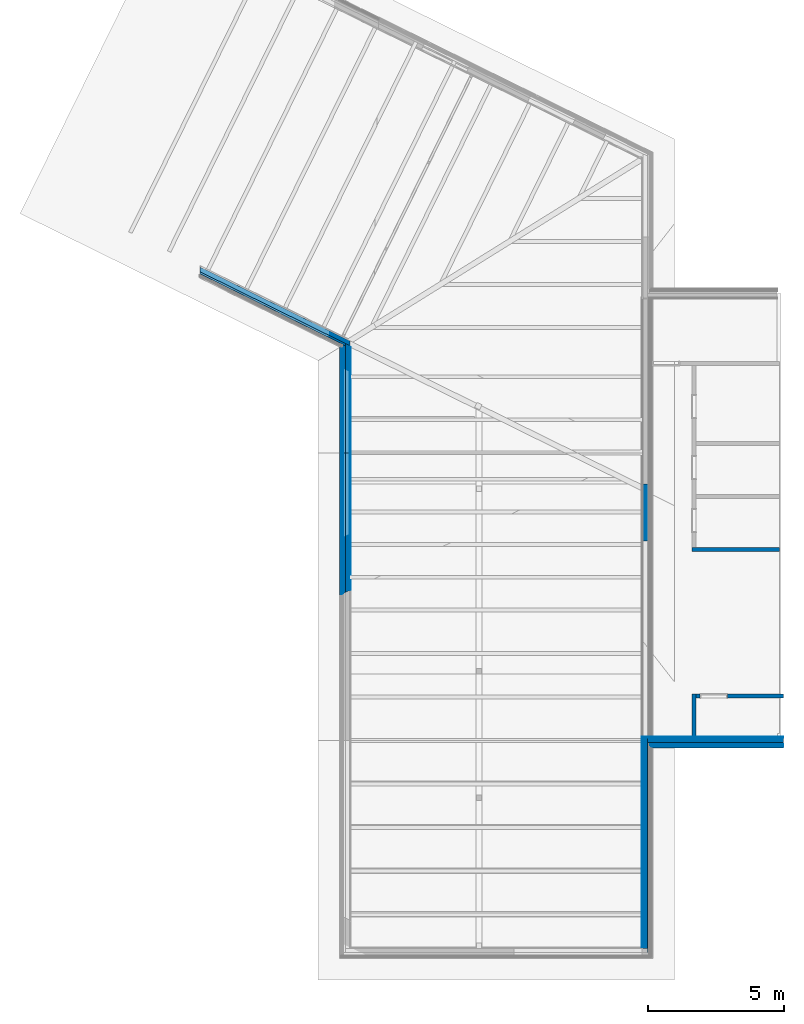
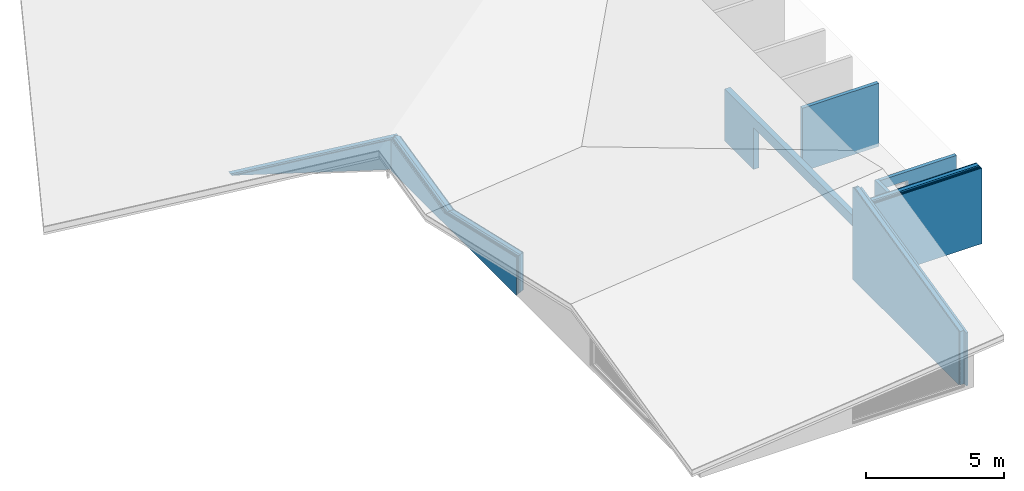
# One storey, part 4 of 14: 24 walls, 2 openings.
"""IFC4 building model written with IfcOpenShell, lengths in metres."""

from ifc_helpers import new_model, entity, si_unit, converted_unit, derived_unit, frame, frame_2d, origin, origin_with_axes, place, context, subcontext, project, spatial, polyline, rectangle, outline, extrude, clip, halfspace, bounded_halfspace, material, element, save


model = new_model("IFC4")

# Units and contexts
model_context = context("Model", 3, precision=1e-05, world=origin())
body_context = subcontext(model_context, "Body", "Model", "MODEL_VIEW")
ifc_project = project(units=[si_unit("LENGTHUNIT", "METRE"), si_unit("AREAUNIT", "SQUARE_METRE"), si_unit("VOLUMEUNIT", "CUBIC_METRE"), si_unit("MASSUNIT", "GRAM", prefix="KILO"), converted_unit("PLANEANGLEUNIT", "DEGREE", entity("IfcPlaneAngleMeasure", 0.0174532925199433), si_unit("PLANEANGLEUNIT", "RADIAN"), dimensions=[0, 0, 0, 0, 0, 0, 0]), derived_unit("THERMALTRANSMITTANCEUNIT", [(si_unit("POWERUNIT", "WATT"), 1), (si_unit("THERMODYNAMICTEMPERATUREUNIT", "KELVIN"), -1), (si_unit("LENGTHUNIT", "METRE"), -2)]), derived_unit("VOLUMETRICFLOWRATEUNIT", [(si_unit("LENGTHUNIT", "METRE"), 3), (converted_unit("TIMEUNIT", "hour", entity("IfcTimeMeasure", 3600.0), si_unit("TIMEUNIT", "SECOND"), dimensions=[0, 0, 1, 0, 0, 0, 0]), -1), (si_unit("LENGTHUNIT", "METRE"), -1)])], contexts=[model_context])

# Site, building, storey
site_placement = place(None, origin())
site = spatial("IfcSite", under=ifc_project, at=site_placement, Name="Psychiatrie Neubau Wunstorf", CompositionType="ELEMENT")
building_placement = place(site_placement, origin())
building = spatial("IfcBuilding", under=site, at=building_placement, Name="Neubau H1 Sozialzentrum", CompositionType="ELEMENT")
storey_placement = place(building_placement, frame((0.0, 0.0, 4.45)))
storey = spatial("IfcBuildingStorey", under=building, at=storey_placement, Name="H1 Ebene +1", CompositionType="ELEMENT", Elevation=4.45)

# Walls
ifc_material_1 = material(Name="WA-LB")
wall_1_placement = place(storey_placement, frame((0.0299999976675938, 11.9922461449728, -0.15), z_axis=(0.0, 0.0, 1.0), x_axis=(-0.999999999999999, 3.43512303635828e-08, 0.0)))
element("IfcWall", 1, at=wall_1_placement, inside=storey, material=ifc_material_1, context=body_context, shape_type="SweptSolid", body=[
    extrude(rectangle(XDim=5.16052861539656, YDim=0.0359999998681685, at=frame_2d((2.58026430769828, 0.0179999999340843), x_axis=(1.0, 0.0))), origin_with_axes(), (0.0, 0.0, 1.0), 3.36),
])
ifc_material_2 = material(Name="WA-HD")
wall_2_placement = place(storey_placement, frame((0.0299999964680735, 11.9562461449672, -0.15), z_axis=(0.0, 0.0, 1.0), x_axis=(-0.999999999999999, 3.43778605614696e-08, 0.0)))
element("IfcWall", 2, at=wall_2_placement, inside=storey, material=ifc_material_2, context=body_context, shape_type="SweptSolid", body=[
    extrude(rectangle(XDim=5.00052855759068, YDim=0.159999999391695, at=frame_2d((2.50026427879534, 0.0799999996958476), x_axis=(1.0, 0.0))), origin_with_axes(), (0.0, 0.0, 1.0), 3.36),
])
ifc_material_3 = material(Name="WA-DL")
wall_3_placement = place(storey_placement, frame((0.029999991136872, 11.7962461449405, -0.15), z_axis=(0.0, 0.0, 1.0), x_axis=(-0.999999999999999, 3.45048465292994e-08, 0.0)))
element("IfcWall", 3, at=wall_3_placement, inside=storey, material=ifc_material_3, context=body_context, shape_type="SweptSolid", body=[
    extrude(rectangle(XDim=4.9205284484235, YDim=0.0799999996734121, at=frame_2d((2.46026422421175, 0.0399999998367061), x_axis=(1.0, 0.0))), origin_with_axes(), (0.0, 0.0, 1.0), 3.36),
])
ifc_material_4 = material(Name="WA-LB")
wall_4_placement = place(storey_placement, frame((0.0299999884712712, 11.716246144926, -0.15), z_axis=(0.0, 0.0, 1.0), x_axis=(-0.999999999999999, 3.45741810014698e-08, 0.0)))
element("IfcWall", 4, at=wall_4_placement, inside=storey, material=ifc_material_4, context=body_context, shape_type="SweptSolid", body=[
    extrude(rectangle(XDim=4.88452839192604, YDim=0.0359999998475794, at=frame_2d((2.44226419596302, 0.0179999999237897), x_axis=(1.0, 0.0))), origin_with_axes(), (0.0, 0.0, 1.0), 3.36),
])
ifc_material_5 = material(Name="WA-KL")
wall_5_placement = place(storey_placement, frame((0.0299999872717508, 11.6802461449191, -0.15), z_axis=(0.0, 0.0, 1.0), x_axis=(-0.999999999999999, 3.4606787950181e-08, 0.0)))
element("IfcWall", 5, at=wall_5_placement, inside=storey, material=ifc_material_5, context=body_context, shape_type="SweptSolid", body=[
    extrude(rectangle(XDim=4.86052836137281, YDim=0.0239999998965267, at=frame_2d((2.4302641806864, 0.0119999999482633), x_axis=(1.0, 0.0))), origin_with_axes(), (0.0, 0.0, 1.0), 3.36),
])
ifc_material_6 = material(Name="WA-TL")
wall_6_placement = place(storey_placement, frame((0.0299999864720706, 11.6562461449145, -0.15), z_axis=(0.0, 0.0, 1.0), x_axis=(-0.999999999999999, 3.46290385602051e-08, 0.0)))
element("IfcWall", 6, at=wall_6_placement, inside=storey, material=ifc_material_6, context=body_context, shape_type="SweptSolid", body=[
    extrude(rectangle(XDim=4.8365283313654, YDim=0.023999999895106, at=frame_2d((2.4182641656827, 0.011999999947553), x_axis=(1.0, 0.0))), origin_with_axes(), (0.0, 0.0, 1.0), 3.36),
])
ifc_material_7 = material(Name="WA-HS")
wall_7_placement = place(storey_placement, frame((0.0299999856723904, 11.6322461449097, -0.15), z_axis=(0.0, 0.0, 1.0), x_axis=(-0.999999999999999, 3.46517127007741e-08, 0.0)))
element("IfcWall", 7, at=wall_7_placement, inside=storey, material=ifc_material_7, context=body_context, shape_type="SweptSolid", body=[
    extrude(rectangle(XDim=4.7945283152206, YDim=0.0420000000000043, at=frame_2d((2.3972641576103, 0.0210000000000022), x_axis=(1.0, 0.0))), origin_with_axes(), (0.0, 0.0, 1.0), 3.36),
])
ifc_material_8 = material(Name="WA-LB")
wall_8_placement = place(storey_placement, frame((-15.8625266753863, 17.3981280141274, -0.15), z_axis=(0.0, 0.0, 1.0), x_axis=(0.0, 1.0, 0.0)))
element("IfcWall", 8, at=wall_8_placement, inside=storey, material=ifc_material_8, context=body_context, shape_type="Clipping", body=[
    clip(clip(extrude(outline(polyline([(0.0170132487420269, -0.036000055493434), (8.9270877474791, -0.036000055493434), (8.94483771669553, 0.0), (0.0, 0.0), (0.0170132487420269, -0.036000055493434)])), frame((-0.0170132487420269, 0.036000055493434, 0.0), z_axis=(0.0, 0.0, 1.0), x_axis=(1.0, 0.0, 0.0)), (0.0, 0.0, 1.0), 1.68012656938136), bounded_halfspace(frame((6.97779700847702, 0.018000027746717, 0.966206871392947), z_axis=(0.222900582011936, -0.10534052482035, -0.969132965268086), x_axis=(-0.974555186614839, 0.0, -0.22414769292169)), True, origin_with_axes(), polyline([(8.92782446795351, 0.036000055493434), (5.03664453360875, 0.036000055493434), (5.03664453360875, 0.0), (8.91007449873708, 0.0), (8.92782446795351, 0.036000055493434)]))), bounded_halfspace(frame((2.51406895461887, 0.0180000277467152, 1.09993418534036), z_axis=(-0.222900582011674, -0.105340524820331, -0.969132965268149), x_axis=(0.9745551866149, 0.0, -0.224147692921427)), True, origin_with_axes(), polyline([(0.0, 0.0), (5.03664453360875, 0.0), (5.03664453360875, 0.036000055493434), (-0.0170132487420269, 0.036000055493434), (0.0, 0.0)]))),
])
ifc_material_9 = material(Name="WA-HD")
wall_9_placement = place(storey_placement, frame((-15.8985267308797, 17.3811147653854, -0.15), z_axis=(0.0, 0.0, 1.0), x_axis=(0.0, 1.0, 0.0)))
element("IfcWall", 9, at=wall_9_placement, inside=storey, material=ifc_material_9, context=body_context, shape_type="Clipping", body=[
    clip(clip(clip(extrude(outline(polyline([(0.0756143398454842, -0.160000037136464), (9.06505022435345, -0.160000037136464), (9.14393887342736, 0.0), (0.0, 0.0), (0.0756143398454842, -0.160000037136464)])), frame((-0.0756143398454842, 0.160000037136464, 0.0), z_axis=(0.0, 0.0, 1.0), x_axis=(1.0, 0.0, 0.0)), (0.0, 0.0, 1.0), 1.68012656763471), bounded_halfspace(frame((9.06519046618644, 0.15805119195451, 1.42274896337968), z_axis=(-0.00424748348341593, -0.246631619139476, -0.969099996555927), x_axis=(-0.999990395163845, 0.0, 0.0043828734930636)), True, origin_with_axes(), polyline([(9.06832453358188, 0.160000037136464), (9.0618049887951, 0.160000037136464), (9.06544187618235, 0.154153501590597), (9.06832453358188, 0.160000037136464)]))), bounded_halfspace(frame((7.4447996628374, 0.0948307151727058, 1.05744022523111), z_axis=(0.222900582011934, -0.105340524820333, -0.969132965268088), x_axis=(-0.974555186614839, 0.0, -0.224147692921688)), True, origin_with_axes(), polyline([(9.0618049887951, 0.160000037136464), (5.05365778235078, 0.160000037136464), (5.05365778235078, 0.0), (8.98943588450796, 0.0), (9.06544187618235, 0.154153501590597), (9.0618049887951, 0.160000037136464)]))), bounded_halfspace(frame((2.50792530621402, 0.0800000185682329, 1.09460809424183), z_axis=(-0.222900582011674, -0.105340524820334, -0.969132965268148), x_axis=(0.9745551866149, 0.0, -0.224147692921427)), True, origin_with_axes(), polyline([(0.0, 0.0), (5.05365778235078, 0.0), (5.05365778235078, 0.160000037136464), (-0.0756143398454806, 0.160000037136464), (0.0, 0.0)]))),
])
ifc_material_10 = material(Name="WA-DL")
wall_10_placement = place(storey_placement, frame((-16.0585267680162, 17.3055004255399, -0.15), z_axis=(0.0, 0.0, 1.0), x_axis=(0.0, 1.0, 0.0)))
element("IfcWall", 10, at=wall_10_placement, inside=storey, material=ifc_material_10, context=body_context, shape_type="Clipping", body=[
    clip(clip(clip(extrude(outline(polyline([(0.0378071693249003, -0.0800000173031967), (9.09255042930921, -0.0800000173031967), (9.13199475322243, 0.0), (0.0, 0.0), (0.0378071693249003, -0.0800000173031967)])), frame((-0.0378071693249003, 0.0800000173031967, 0.0), z_axis=(0.0, 0.0, 1.0), x_axis=(1.0, 0.0, 0.0)), (0.0, 0.0, 1.0), 1.68012655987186), bounded_halfspace(frame((9.09104707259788, 0.0780471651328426, 1.40260842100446), z_axis=(-0.0042470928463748, -0.246631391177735, -0.969100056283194), x_axis=(-0.999990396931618, -2.78430428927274e-13, 0.00438247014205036)), True, origin_with_axes(), polyline([(9.09418758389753, 0.0800000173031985), (9.08765463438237, 0.0800000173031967), (9.09129899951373, 0.0741414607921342), (9.09418758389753, 0.0800000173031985)]))), bounded_halfspace(frame((7.49844822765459, 0.0468282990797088, 1.04021444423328), z_axis=(0.222900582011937, -0.10534052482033, -0.969132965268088), x_axis=(-0.974555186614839, 0.0, -0.224147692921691)), True, origin_with_axes(), polyline([(9.08765463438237, 0.0800000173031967), (5.12927212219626, 0.0800000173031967), (5.12927212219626, 0.0), (9.05474325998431, 0.0), (9.09129899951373, 0.0741414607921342), (9.08765463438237, 0.0800000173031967)]))), bounded_halfspace(frame((2.5551842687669, 0.0400000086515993, 1.08808635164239), z_axis=(-0.222900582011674, -0.105340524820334, -0.969132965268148), x_axis=(0.9745551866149, 0.0, -0.224147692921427)), True, origin_with_axes(), polyline([(0.0, 0.0), (5.12927212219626, 0.0), (5.12927212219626, 0.0800000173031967), (-0.0378071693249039, 0.0800000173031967), (0.0, 0.0)]))),
])
ifc_material_11 = material(Name="WA-LB")
wall_11_placement = place(storey_placement, frame((-16.1385267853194, 17.267693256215, -0.15), z_axis=(0.0, 0.0, 1.0), x_axis=(0.0, 1.0, 0.0)))
element("IfcWall", 11, at=wall_11_placement, inside=storey, material=ifc_material_11, context=body_context, shape_type="Clipping", body=[
    clip(clip(clip(extrude(outline(polyline([(0.017013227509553, -0.0360000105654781), (9.10886995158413, -0.0360000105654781), (9.1266198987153, 0.0), (0.0, 0.0), (0.017013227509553, -0.0360000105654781)])), frame((-0.017013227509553, 0.0360000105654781, 0.0), z_axis=(0.0, 0.0, 1.0), x_axis=(1.0, 0.0, 0.0)), (0.0, 0.0, 1.0), 1.68012655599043), bounded_halfspace(frame((9.10646326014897, 0.034045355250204, 1.39354517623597), z_axis=(-0.00424691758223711, -0.246631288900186, -0.969100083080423), x_axis=(-0.999990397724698, 2.78173580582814e-13, 0.00438228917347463)), True, origin_with_axes(), polyline([(9.10960667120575, 0.0360000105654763), (9.10306768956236, 0.0360000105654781), (9.10671541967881, 0.0301360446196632), (9.10960667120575, 0.0360000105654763)]))), bounded_halfspace(frame((7.52715968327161, 0.0204272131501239, 1.03229646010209), z_axis=(0.222900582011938, -0.105340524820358, -0.969132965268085), x_axis=(-0.974555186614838, 0.0, -0.224147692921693)), True, origin_with_axes(), polyline([(9.10306768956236, 0.0360000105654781), (5.16707929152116, 0.0360000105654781), (5.16707929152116, 0.0), (9.09185672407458, 0.0), (9.10671541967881, 0.0301360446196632), (9.10306768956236, 0.0360000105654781)]))), bounded_halfspace(frame((2.57928633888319, 0.0180000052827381, 1.08493417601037), z_axis=(-0.222900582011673, -0.105340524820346, -0.969132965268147), x_axis=(0.9745551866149, 0.0, -0.224147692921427)), True, origin_with_axes(), polyline([(0.0, 0.0), (5.16707929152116, 0.0), (5.16707929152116, 0.0360000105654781), (-0.0170132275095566, 0.0360000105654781), (0.0, 0.0)]))),
])
ifc_material_12 = material(Name="WA-KL")
wall_12_placement = place(storey_placement, frame((-16.1745267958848, 17.2506800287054, -0.15), z_axis=(0.0, 0.0, 1.0), x_axis=(0.0, 1.0, 0.0)))
element("IfcWall", 12, at=wall_12_placement, inside=storey, material=ifc_material_12, context=body_context, shape_type="Clipping", body=[
    clip(clip(clip(extrude(outline(polyline([(0.0113421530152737, -0.0240000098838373), (9.11120336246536, -0.0240000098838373), (9.12303666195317, 0.0), (0.0, 0.0), (0.0113421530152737, -0.0240000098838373)])), frame((-0.0113421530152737, 0.0240000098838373, 0.0), z_axis=(0.0, 0.0, 1.0), x_axis=(1.0, 0.0, 0.0)), (0.0, 0.0, 1.0), 1.68012655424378), bounded_halfspace(frame((9.10854916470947, 0.0220441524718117, 1.38750301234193), z_axis=(-0.0042468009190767, -0.246631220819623, -0.969100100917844), x_axis=(-0.999990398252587, 0.0, 0.00438216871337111)), True, origin_with_axes(), polyline([(9.1116945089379, 0.0240000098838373), (9.1051515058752, 0.0240000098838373), (9.10880147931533, 0.0181324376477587), (9.1116945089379, 0.0240000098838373)]))), bounded_halfspace(frame((7.53639984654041, 0.0132264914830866, 1.02737829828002), z_axis=(0.22290058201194, -0.105340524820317, -0.969132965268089), x_axis=(-0.974555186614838, 0.0, -0.224147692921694)), True, origin_with_axes(), polyline([(9.1051515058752, 0.0240000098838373), (5.18409251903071, 0.0240000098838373), (5.18409251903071, 0.0), (9.09986120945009, 0.0), (9.10880147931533, 0.0181324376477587), (9.1051515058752, 0.0240000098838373)]))), bounded_halfspace(frame((2.58921072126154, 0.0120000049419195, 1.08330374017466), z_axis=(-0.222900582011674, -0.10534052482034, -0.969132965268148), x_axis=(0.9745551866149, 0.0, -0.224147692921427)), True, origin_with_axes(), polyline([(0.0, 0.0), (5.18409251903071, 0.0), (5.18409251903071, 0.0240000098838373), (-0.0113421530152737, 0.0240000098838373), (0.0, 0.0)]))),
])
ifc_material_13 = material(Name="WA-TL")
wall_13_placement = place(storey_placement, frame((-16.1985268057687, 17.2393378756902, -0.15), z_axis=(0.0, 0.0, 1.0), x_axis=(0.0, 1.0, 0.0)))
element("IfcWall", 13, at=wall_13_placement, inside=storey, material=ifc_material_13, context=body_context, shape_type="Clipping", body=[
    clip(clip(clip(extrude(outline(polyline([(0.0113421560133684, -0.0240000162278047), (9.10762012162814, -0.0240000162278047), (9.11945342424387, 0.0), (0.0, 0.0), (0.0113421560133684, -0.0240000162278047)])), frame((-0.0113421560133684, 0.0240000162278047, 0.0), z_axis=(0.0, 0.0, 1.0), x_axis=(1.0, 0.0, 0.0)), (0.0, 0.0, 1.0), 1.68012655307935), bounded_halfspace(frame((9.10496399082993, 0.0220429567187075, 1.38146084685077), z_axis=(-0.00424668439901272, -0.246631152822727, -0.969100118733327), x_axis=(-0.999990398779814, 0.0, 0.00438204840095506)), True, origin_with_axes(), polyline([(9.1081112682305, 0.0240000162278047), (9.10156424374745, 0.0240000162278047), (9.10521646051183, 0.018128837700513), (9.1081112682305, 0.0240000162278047)]))), bounded_halfspace(frame((7.53878560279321, 0.0132257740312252, 1.0227097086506), z_axis=(0.222900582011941, -0.105340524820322, -0.969132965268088), x_axis=(-0.974555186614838, 0.0, -0.224147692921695)), True, origin_with_axes(), polyline([(9.10156424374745, 0.0240000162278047), (5.19543467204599, 0.0240000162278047), (5.19543467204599, 0.0), (9.09627796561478, 0.0), (9.10521646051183, 0.018128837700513), (9.10156424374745, 0.0240000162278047)]))), bounded_halfspace(frame((2.59488179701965, 0.0120000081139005, 1.08199939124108), z_axis=(-0.222900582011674, -0.105340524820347, -0.969132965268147), x_axis=(0.9745551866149, 0.0, -0.224147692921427)), True, origin_with_axes(), polyline([(0.0, 0.0), (5.19543467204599, 0.0), (5.19543467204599, 0.0240000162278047), (-0.0113421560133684, 0.0240000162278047), (0.0, 0.0)]))),
])
ifc_material_14 = material(Name="WA-HS")
wall_14_placement = place(storey_placement, frame((-16.2225268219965, 17.2279957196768, -0.15), z_axis=(0.0, 0.0, 1.0), x_axis=(0.0, 1.0, 0.0)))
element("IfcWall", 14, at=wall_14_placement, inside=storey, material=ifc_material_14, context=body_context, shape_type="Clipping", body=[
    clip(clip(clip(extrude(outline(polyline([(0.0189035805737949, -0.04), (9.09152931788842, -0.04), (9.11125147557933, 0.0), (0.0, 0.0), (0.0189035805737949, -0.04)])), frame((-0.0189035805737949, 0.04, 0.0), z_axis=(0.0, 0.0, 1.0), x_axis=(1.0, 0.0, 0.0)), (0.0, 0.0, 1.0), 1.68012655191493), bounded_halfspace(frame((9.09026934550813, 0.0387075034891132, 1.37122586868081), z_axis=(-0.00434416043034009, -0.246688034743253, -0.969085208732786), x_axis=(-0.999989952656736, 0.0, 0.00448269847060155)), True, origin_with_axes(), polyline([(9.09234789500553, 0.04), (9.08802405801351, 0.04), (9.09043608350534, 0.0361225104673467), (9.09234789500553, 0.04)]))), bounded_halfspace(frame((7.53292790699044, 0.0232245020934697, 1.01505822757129), z_axis=(0.222900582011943, -0.105340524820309, -0.969132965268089), x_axis=(-0.974555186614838, 0.0, -0.224147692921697)), True, origin_with_axes(), polyline([(9.08802405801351, 0.04), (5.20677682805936, 0.04), (5.20677682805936, 0.0), (9.07262573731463, 0.0), (9.09043608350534, 0.0361225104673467), (9.08802405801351, 0.04)]))), bounded_halfspace(frame((2.59866251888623, 0.02, 1.08026025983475), z_axis=(-0.222900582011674, -0.105340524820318, -0.96913296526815), x_axis=(0.9745551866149, 0.0, -0.224147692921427)), True, origin_with_axes(), polyline([(0.0, 0.0), (5.20677682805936, 0.0), (5.20677682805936, 0.04), (-0.0189035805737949, 0.04), (0.0, 0.0)]))),
])
ifc_material_15 = material(Name="WA-HD")
wall_15_placement = place(storey_placement, frame((-15.8985267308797, 26.5489418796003, -0.161786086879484), z_axis=(0.0, 0.0, 1.0), x_axis=(-0.896905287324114, 0.442222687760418, 0.0)))
element("IfcWall", 15, at=wall_15_placement, inside=storey, material=ifc_material_15, context=body_context, shape_type="Clipping", body=[
    clip(clip(clip(clip(clip(extrude(outline(polyline([(-4.86366932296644, -2.59694773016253), (1.27718833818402, -2.59694773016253), (1.20154666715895, -2.43694769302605), (-4.94255797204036, -2.43694769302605), (-4.86366932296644, -2.59694773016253)])), frame((4.86366932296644, 2.59694773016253, 0.0), z_axis=(0.0, 0.0, 1.0), x_axis=(1.0, 0.0, 0.0)), (0.0, 0.0, 1.0), 1.41242597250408), bounded_halfspace(frame((6.07741489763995, 0.0800000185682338, 0.00589304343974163), z_axis=(0.222899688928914, 0.105378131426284, 0.96912908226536), x_axis=(-0.427404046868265, 0.904060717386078, 0.0)), True, origin_with_axes(), polyline([(6.14085766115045, 0.0), (6.06521599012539, 0.160000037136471), (6.01397213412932, 0.160000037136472), (6.08961380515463, 0.0), (6.14085766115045, 0.0)]))), bounded_halfspace(frame((3.00617432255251, 0.0800000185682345, 0.0117860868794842), z_axis=(0.0, 0.0, 1.0), x_axis=(1.0, 1.11022302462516e-16, 0.0)), True, origin_with_axes(), polyline([(0.0, 0.0), (6.08961380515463, 0.0), (6.01397213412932, 0.160000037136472), (-0.0788886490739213, 0.160000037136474), (0.0, 0.0)]))), bounded_halfspace(frame((6.07741489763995, 0.0800000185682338, 0.0117860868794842), z_axis=(0.0, 0.0, -1.0), x_axis=(-1.0, 1.01585406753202e-14, 0.0)), True, origin_with_axes(), polyline([(6.06521599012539, 0.160000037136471), (6.01397213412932, 0.160000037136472), (6.08961380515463, 0.0), (6.14085766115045, 0.0), (6.06521599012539, 0.160000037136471)]))), bounded_halfspace(frame((2.43873974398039, 0.0651646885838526, 0.84440205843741), z_axis=(-0.222900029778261, -0.105373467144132, -0.969129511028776), x_axis=(0.974555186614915, 1.11022302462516e-16, -0.224147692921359)), True, origin_with_axes(), polyline([(0.0, 0.0), (6.08961380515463, 0.0), (6.01397213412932, 0.160000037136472), (0.0929840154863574, 0.160000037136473), (-0.00287123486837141, 0.00582336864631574), (0.0, 0.0)]))), bounded_halfspace(frame((0.00374137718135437, 0.108607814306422, 1.38631005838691), z_axis=(0.00409122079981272, -0.246504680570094, -0.969132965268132), x_axis=(-0.999991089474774, 6.0507154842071e-15, -0.00422148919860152)), True, origin_with_axes(), polyline([(0.0929840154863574, 0.160000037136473), (-0.0788886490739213, 0.160000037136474), (-0.00287123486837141, 0.00582336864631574), (0.0929840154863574, 0.160000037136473)]))),
])
ifc_material_16 = material(Name="WA-DL")
wall_16_placement = place(storey_placement, frame((-16.0585267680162, 26.4494392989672, -0.161786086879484), z_axis=(0.0, 0.0, 1.0), x_axis=(-0.896905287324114, 0.442222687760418, 0.0)))
element("IfcWall", 16, at=wall_16_placement, inside=storey, material=ifc_material_16, context=body_context, shape_type="Clipping", body=[
    clip(clip(clip(clip(clip(extrude(outline(polyline([(-4.76091476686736, -2.44683599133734), (1.20479864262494, -2.44683599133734), (1.16697780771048, -2.36683597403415), (-4.80035909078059, -2.36683597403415), (-4.76091476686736, -2.44683599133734)])), frame((4.76091476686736, 2.44683599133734, 0.0), z_axis=(0.0, 0.0, 1.0), x_axis=(1.0, 0.0, 0.0)), (0.0, 0.0, 1.0), 1.372142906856), bounded_halfspace(frame((5.92118106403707, 0.0400000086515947, 0.00589304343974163), z_axis=(0.222899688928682, 0.105378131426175, 0.969129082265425), x_axis=(-0.427404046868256, 0.904060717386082, 0.0)), True, origin_with_axes(), polyline([(5.96571340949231, 0.0), (5.92789257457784, 0.0800000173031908), (5.87664871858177, 0.0800000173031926), (5.91446955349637, 0.0), (5.96571340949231, 0.0)]))), bounded_halfspace(frame((2.93791848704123, 0.0400000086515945, 0.0117860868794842), z_axis=(0.0, 0.0, 1.0), x_axis=(1.0, 0.0, 0.0)), True, origin_with_axes(), polyline([(0.0, 0.0), (5.91446955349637, 0.0), (5.87664871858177, 0.0800000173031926), (-0.039444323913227, 0.0800000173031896), (0.0, 0.0)]))), bounded_halfspace(frame((5.92118106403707, 0.0400000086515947, 0.0117860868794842), z_axis=(0.0, 0.0, -1.0), x_axis=(-1.0, 4.13558076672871e-14, 0.0)), True, origin_with_axes(), polyline([(5.92789257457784, 0.0800000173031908), (5.87664871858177, 0.0800000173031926), (5.91446955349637, 0.0), (5.96571340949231, 0.0), (5.92789257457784, 0.0800000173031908)]))), bounded_halfspace(frame((2.3662909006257, 0.0331694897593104, 0.824261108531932), z_axis=(-0.222900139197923, -0.10536889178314, -0.969129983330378), x_axis=(0.974555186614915, -5.55111512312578e-17, -0.224147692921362)), True, origin_with_axes(), polyline([(0.0, 0.0), (5.91446955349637, 0.0), (5.87664871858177, 0.0800000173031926), (0.0432193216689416, 0.080000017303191), (-0.00288309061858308, 0.00584741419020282), (0.0, 0.0)]))), bounded_halfspace(frame((0.000297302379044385, 0.0552824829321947, 1.3595822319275), z_axis=(0.0040912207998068, -0.246504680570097, -0.969132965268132), x_axis=(-0.999991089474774, -1.67088565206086e-14, -0.00422148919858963)), True, origin_with_axes(), polyline([(0.0432193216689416, 0.080000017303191), (-0.039444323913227, 0.0800000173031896), (-0.00288309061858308, 0.00584741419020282), (0.0432193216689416, 0.080000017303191)]))),
])
ifc_material_17 = material(Name="WA-LB")
wall_17_placement = place(storey_placement, frame((-16.1385267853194, 26.3996880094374, -0.161786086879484), z_axis=(0.0, 0.0, 1.0), x_axis=(-0.896905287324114, 0.442222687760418, 0.0)))
element("IfcWall", 17, at=wall_17_placement, inside=storey, material=ifc_material_17, context=body_context, shape_type="Clipping", body=[
    clip(clip(clip(clip(clip(extrude(outline(polyline([(-4.71144440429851, -2.36774792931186), (1.16669688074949, -2.36774792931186), (1.14967750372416, -2.33174791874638), (-4.72919435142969, -2.33174791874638), (-4.71144440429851, -2.36774792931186)])), frame((4.71144440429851, 2.36774792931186, 0.0), z_axis=(0.0, 0.0, 1.0), x_axis=(1.0, 0.0, 0.0)), (0.0, 0.0, 1.0), 1.35200137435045), bounded_halfspace(frame((5.84400966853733, 0.0180000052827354, 0.00589304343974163), z_axis=(0.222899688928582, 0.105378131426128, 0.969129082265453), x_axis=(-0.427404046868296, 0.904060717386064, 0.0)), True, origin_with_axes(), polyline([(5.87814128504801, 0.0), (5.86112190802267, 0.036000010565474), (5.80987805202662, 0.0360000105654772), (5.82689742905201, 0.0), (5.87814128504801, 0.0)]))), bounded_halfspace(frame((2.90475638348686, 0.0180000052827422, 0.0117860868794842), z_axis=(0.0, 0.0, 1.0), x_axis=(1.0, -2.77555756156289e-16, 0.0)), True, origin_with_axes(), polyline([(0.0, 0.0), (5.82689742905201, 0.0), (5.80987805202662, 0.0360000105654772), (-0.017749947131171, 0.0360000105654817), (0.0, 0.0)]))), bounded_halfspace(frame((5.84400966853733, 0.0180000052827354, 0.0117860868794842), z_axis=(0.0, 0.0, -1.0), x_axis=(-1.0, 7.17204073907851e-14, 0.0)), True, origin_with_axes(), polyline([(5.86112190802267, 0.036000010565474), (5.80987805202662, 0.0360000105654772), (5.82689742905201, 0.0), (5.87814128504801, 0.0), (5.86112190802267, 0.036000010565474)]))), bounded_halfspace(frame((2.3299473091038, 0.0155718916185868, 0.814392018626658), z_axis=(-0.222900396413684, -0.10535771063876, -0.969131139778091), x_axis=(0.974555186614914, -2.22044604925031e-16, -0.224147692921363)), True, origin_with_axes(), polyline([(0.0, 0.0), (5.82689742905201, 0.0), (5.80987805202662, 0.0360000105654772), (0.0158500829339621, 0.0360000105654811), (-0.00288901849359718, 0.00585943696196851), (0.0, 0.0)]))), bounded_halfspace(frame((-0.00159629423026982, 0.0259531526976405, 1.34689587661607), z_axis=(0.00409122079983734, -0.246504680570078, -0.969132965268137), x_axis=(-0.999991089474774, 1.71529457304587e-14, -0.00422148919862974)), True, origin_with_axes(), polyline([(0.0158500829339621, 0.0360000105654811), (-0.017749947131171, 0.0360000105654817), (-0.00288901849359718, 0.00585943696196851), (0.0158500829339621, 0.0360000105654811)]))),
])
ifc_material_18 = material(Name="WA-LB")
wall_18_placement = place(storey_placement, frame((-5.1665286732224, 11.9922463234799, -0.15), z_axis=(0.0, 0.0, 1.0), x_axis=(5.40829748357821e-07, -0.999999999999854, 0.0)))
element("IfcWall", 18, at=wall_18_placement, inside=storey, material=ifc_material_18, context=body_context, shape_type="Clipping", body=[
    clip(clip(extrude(rectangle(XDim=7.72992495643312, YDim=0.0360000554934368, at=frame_2d((3.86496247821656, 0.0180000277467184), x_axis=(1.0, 0.0))), origin_with_axes(), (0.0, 0.0, 1.0), 4.12034346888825), bounded_halfspace(frame((3.93092496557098, 0.0180000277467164, 3.24461716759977), z_axis=(-0.222900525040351, 0.105340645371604, -0.969132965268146), x_axis=(-0.974555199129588, 5.20551932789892e-16, 0.224147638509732)), True, origin_with_axes(), polyline([(7.72992497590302, 0.0360000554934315), (0.131924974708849, 0.0360000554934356), (0.131924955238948, 0.0), (7.72992495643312, 0.0), (7.72992497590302, 0.0360000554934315)]))), bounded_halfspace(frame((0.0659624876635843, 0.0180000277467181, 4.10321557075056), z_axis=(0.222900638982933, 0.105340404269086, -0.969132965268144), x_axis=(0.974555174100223, 3.10587616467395e-15, 0.224147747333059)), True, origin_with_axes(), polyline([(0.0, 0.0), (0.131924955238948, 0.0), (0.131924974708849, 0.0360000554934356), (2.07065463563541e-08, 0.0360000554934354), (0.0, 0.0)]))),
])
ifc_material_19 = material(Name="WA-HD")
wall_19_placement = place(storey_placement, frame((-5.13052859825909, 11.9562463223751, -0.15), z_axis=(0.0, 0.0, 1.0), x_axis=(5.40829747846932e-07, -0.999999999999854, 0.0)))
element("IfcWall", 19, at=wall_19_placement, inside=storey, material=ifc_material_19, context=body_context, shape_type="Clipping", body=[
    clip(clip(extrude(rectangle(XDim=7.72992501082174, YDim=0.160000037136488, at=frame_2d((3.86496250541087, 0.0800000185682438), x_axis=(1.0, 0.0))), origin_with_axes(), (0.0, 0.0, 1.0), 4.13773477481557), bounded_halfspace(frame((3.91292502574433, 0.0800000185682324, 3.25112933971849), z_axis=(-0.222900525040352, 0.105340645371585, -0.969132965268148), x_axis=(-0.974555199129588, 7.70869862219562e-17, 0.224147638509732)), True, origin_with_axes(), polyline([(7.72992509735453, 0.160000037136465), (0.0959250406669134, 0.160000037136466), (0.0959249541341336, 0.0), (7.72992501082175, 0.0), (7.72992509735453, 0.160000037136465)]))), bounded_halfspace(frame((0.0479625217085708, 0.0800000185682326, 4.11800774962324), z_axis=(0.222900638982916, 0.105340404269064, -0.96913296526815), x_axis=(0.974555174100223, -3.10523824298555e-15, 0.224147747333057)), True, origin_with_axes(), polyline([(0.0, 0.0), (0.0959249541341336, 0.0), (0.0959250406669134, 0.160000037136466), (9.20332399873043e-08, 0.160000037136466), (0.0, 0.0)]))),
])
ifc_material_20 = material(Name="WA-DL")
wall_20_placement = place(storey_placement, frame((-4.97052847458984, 11.796246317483, -0.15), z_axis=(0.0, 0.0, 1.0), x_axis=(5.40829747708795e-07, -0.999999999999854, 0.0)))
element("IfcWall", 20, at=wall_20_placement, inside=storey, material=ifc_material_20, context=body_context, shape_type="Clipping", body=[
    clip(extrude(rectangle(XDim=7.72992504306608, YDim=0.0800000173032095, at=frame_2d((3.86496252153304, 0.0400000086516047), x_axis=(1.0, 0.0))), origin_with_axes(), (0.0, 0.0, 1.0), 4.1316931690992), halfspace(frame((3.86496254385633, 0.0400000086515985, 3.23840419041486), z_axis=(-0.222900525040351, 0.105340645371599, -0.969132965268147), x_axis=(0.974555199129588, 0.0, -0.224147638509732)), True)),
])
ifc_material_21 = material(Name="WI-LB")
wall_21_placement = place(storey_placement, frame((-3.33450147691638, 13.5722463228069, -0.15), z_axis=(0.0, 0.0, 1.0), x_axis=(0.0, -1.0, 0.0)))
element("IfcWall", 21, at=wall_21_placement, inside=storey, material=ifc_material_21, context=body_context, shape_type="SweptSolid", body=[
    extrude(rectangle(XDim=1.57999993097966, YDim=0.15, at=frame_2d((0.789999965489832, 0.075), x_axis=(1.0, 0.0))), origin_with_axes(), (0.0, 0.0, 1.0), 2.81),
])

# Wall, opening
ifc_material_22 = material(Name="WI-LB")
wall_22_placement = place(storey_placement, frame((0.0300000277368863, 13.5722461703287, -0.15), z_axis=(0.0, 0.0, 1.0), x_axis=(-0.999999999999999, 4.53196943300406e-08, 0.0)))
wall_22 = element("IfcWall", 22, at=wall_22_placement, inside=storey, material=ifc_material_22, context=body_context, shape_type="SweptSolid", body=[
    extrude(rectangle(XDim=3.21450150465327, YDim=0.15, at=frame_2d((1.60725075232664, 0.075), x_axis=(1.0, 0.0))), origin_with_axes(), (0.0, 0.0, 1.0), 2.81),
])
opening_1_placement = place(wall_22_placement, frame((3.06450149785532, 0.15, 0.0), z_axis=(6.16209945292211e-10, -1.0, 0.0), x_axis=(0.0, 0.0, 1.0)))
element("IfcOpeningElement", 23, at=opening_1_placement, cuts=wall_22, Name="Türöffnung", ObjectType="Opening", context=body_context, shape_type="SweptSolid", body=[
    extrude(outline(polyline([(2.41, 1.01), (2.41, 0.0), (0.0, 0.0), (0.0, 1.01), (2.41, 1.01)])), origin_with_axes(), (0.0, 0.0, 1.0), 0.15),
])

# Wall
ifc_material_23 = material(Name="WI-LB")
wall_23_placement = place(storey_placement, frame((-3.33450147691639, 18.8039608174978, -0.15)))
element("IfcWall", 24, at=wall_23_placement, inside=storey, material=ifc_material_23, context=body_context, shape_type="SweptSolid", body=[
    extrude(rectangle(XDim=3.21350147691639, YDim=0.15, at=frame_2d((1.6067507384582, 0.075), x_axis=(1.0, 0.0))), origin_with_axes(), (0.0, 0.0, 1.0), 2.81),
])

# Wall, opening
ifc_material_24 = material(Name="WI-HW 60")
wall_24_placement = place(storey_placement, frame((-4.93452529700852, 11.590246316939, 0.35), z_axis=(0.0, 0.0, 1.0), x_axis=(1.87563353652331e-16, 1.0, 0.0)))
wall_24 = element("IfcWall", 25, at=wall_24_placement, inside=storey, material=ifc_material_24, context=body_context, shape_type="SweptSolid", body=[
    extrude(rectangle(XDim=9.69799999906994, YDim=0.232, at=frame_2d((4.84899999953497, 0.116), x_axis=(1.0, 0.0))), origin_with_axes(), (0.0, 0.0, 1.0), 2.31),
])
opening_2_placement = place(wall_24_placement, frame((7.60399999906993, 0.232000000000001, -0.35), z_axis=(0.0, -1.0, 0.0), x_axis=(0.0, 0.0, 1.0)))
element("IfcOpeningElement", 26, at=opening_2_placement, cuts=wall_24, Name="Türöffnung", ObjectType="Opening", context=body_context, shape_type="SweptSolid", body=[
    extrude(outline(polyline([(2.2, 7.20199999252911), (2.2, 0.0), (0.0, 0.0), (0.0, 7.20199999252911), (2.2, 7.20199999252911)])), origin_with_axes(), (0.0, 0.0, 1.0), 0.232),
])

save(model, "model.ifc")
